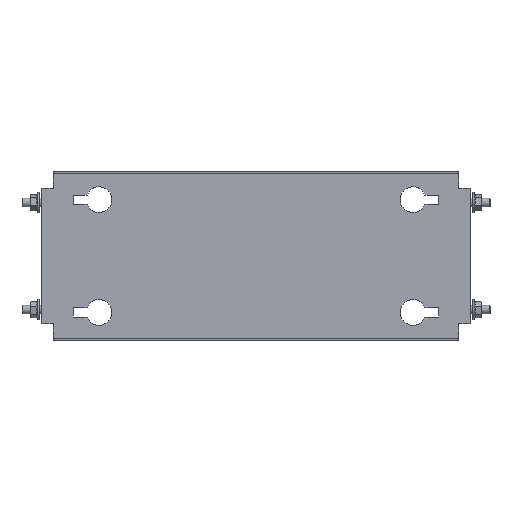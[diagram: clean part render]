
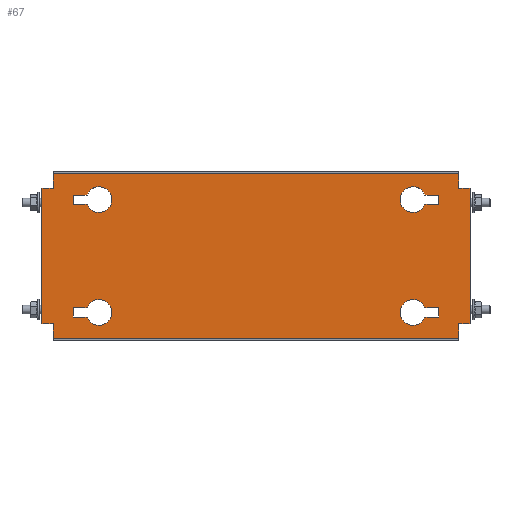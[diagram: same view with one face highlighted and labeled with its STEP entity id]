
A CAD part, top view. The second image highlights one B-rep face of the part: STEP entity #67.
In plain terms, the highlighted planar face has unit normal (0, 0, 1).
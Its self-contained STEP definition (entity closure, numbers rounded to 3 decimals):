
#67 = ADVANCED_FACE('',(#68,#103,#138,#300,#335),#370,.T.);
#68 = FACE_BOUND('',#69,.T.);
#69 = EDGE_LOOP('',(#70,#80,#88,#96));
#70 = ORIENTED_EDGE('',*,*,#71,.T.);
#71 = EDGE_CURVE('',#72,#74,#76,.T.);
#72 = VERTEX_POINT('',#73);
#73 = CARTESIAN_POINT('',(118.393,42.75,2.));
#74 = VERTEX_POINT('',#75);
#75 = CARTESIAN_POINT('',(128.,42.75,2.));
#76 = LINE('',#77,#78);
#77 = CARTESIAN_POINT('',(127.,42.75,2.));
#78 = VECTOR('',#79,1.);
#79 = DIRECTION('',(1.,0.,0.));
#80 = ORIENTED_EDGE('',*,*,#81,.T.);
#81 = EDGE_CURVE('',#74,#82,#84,.T.);
#82 = VERTEX_POINT('',#83);
#83 = CARTESIAN_POINT('',(128.,36.25,2.));
#84 = LINE('',#85,#86);
#85 = CARTESIAN_POINT('',(128.,42.75,2.));
#86 = VECTOR('',#87,1.);
#87 = DIRECTION('',(0.,-1.,0.));
#88 = ORIENTED_EDGE('',*,*,#89,.T.);
#89 = EDGE_CURVE('',#82,#90,#92,.T.);
#90 = VERTEX_POINT('',#91);
#91 = CARTESIAN_POINT('',(118.393,36.25,2.));
#92 = LINE('',#93,#94);
#93 = CARTESIAN_POINT('',(127.,36.25,2.));
#94 = VECTOR('',#95,1.);
#95 = DIRECTION('',(-1.,0.,0.));
#96 = ORIENTED_EDGE('',*,*,#97,.T.);
#97 = EDGE_CURVE('',#90,#72,#98,.T.);
#98 = CIRCLE('',#99,9.);
#99 = AXIS2_PLACEMENT_3D('',#100,#101,#102);
#100 = CARTESIAN_POINT('',(110.,39.5,2.));
#101 = DIRECTION('',(0.,0.,-1.));
#102 = DIRECTION('',(1.,0.,0.));
#103 = FACE_BOUND('',#104,.T.);
#104 = EDGE_LOOP('',(#105,#115,#123,#131));
#105 = ORIENTED_EDGE('',*,*,#106,.T.);
#106 = EDGE_CURVE('',#107,#109,#111,.T.);
#107 = VERTEX_POINT('',#108);
#108 = CARTESIAN_POINT('',(-118.393,-42.75,2.));
#109 = VERTEX_POINT('',#110);
#110 = CARTESIAN_POINT('',(-128.,-42.75,2.));
#111 = LINE('',#112,#113);
#112 = CARTESIAN_POINT('',(-127.,-42.75,2.));
#113 = VECTOR('',#114,1.);
#114 = DIRECTION('',(-1.,0.,0.));
#115 = ORIENTED_EDGE('',*,*,#116,.T.);
#116 = EDGE_CURVE('',#109,#117,#119,.T.);
#117 = VERTEX_POINT('',#118);
#118 = CARTESIAN_POINT('',(-128.,-36.25,2.));
#119 = LINE('',#120,#121);
#120 = CARTESIAN_POINT('',(-128.,-42.75,2.));
#121 = VECTOR('',#122,1.);
#122 = DIRECTION('',(0.,1.,0.));
#123 = ORIENTED_EDGE('',*,*,#124,.T.);
#124 = EDGE_CURVE('',#117,#125,#127,.T.);
#125 = VERTEX_POINT('',#126);
#126 = CARTESIAN_POINT('',(-118.393,-36.25,2.));
#127 = LINE('',#128,#129);
#128 = CARTESIAN_POINT('',(-127.,-36.25,2.));
#129 = VECTOR('',#130,1.);
#130 = DIRECTION('',(1.,-0.,-0.));
#131 = ORIENTED_EDGE('',*,*,#132,.T.);
#132 = EDGE_CURVE('',#125,#107,#133,.T.);
#133 = CIRCLE('',#134,9.);
#134 = AXIS2_PLACEMENT_3D('',#135,#136,#137);
#135 = CARTESIAN_POINT('',(-110.,-39.5,2.));
#136 = DIRECTION('',(0.,0.,-1.));
#137 = DIRECTION('',(-1.,0.,0.));
#138 = FACE_BOUND('',#139,.T.);
#139 = EDGE_LOOP('',(#140,#150,#158,#166,#174,#182,#190,#198,#206,#214,
    #222,#230,#238,#246,#254,#262,#270,#278,#286,#294));
#140 = ORIENTED_EDGE('',*,*,#141,.F.);
#141 = EDGE_CURVE('',#142,#144,#146,.T.);
#142 = VERTEX_POINT('',#143);
#143 = CARTESIAN_POINT('',(-147.4,47.5,2.));
#144 = VERTEX_POINT('',#145);
#145 = CARTESIAN_POINT('',(-142.,47.5,2.));
#146 = LINE('',#147,#148);
#147 = CARTESIAN_POINT('',(-148.,47.5,2.));
#148 = VECTOR('',#149,1.);
#149 = DIRECTION('',(1.,0.,-0.));
#150 = ORIENTED_EDGE('',*,*,#151,.T.);
#151 = EDGE_CURVE('',#142,#152,#154,.T.);
#152 = VERTEX_POINT('',#153);
#153 = CARTESIAN_POINT('',(-150.,47.5,2.));
#154 = LINE('',#155,#156);
#155 = CARTESIAN_POINT('',(-147.4,47.5,2.));
#156 = VECTOR('',#157,1.);
#157 = DIRECTION('',(-1.,0.,0.));
#158 = ORIENTED_EDGE('',*,*,#159,.F.);
#159 = EDGE_CURVE('',#160,#152,#162,.T.);
#160 = VERTEX_POINT('',#161);
#161 = CARTESIAN_POINT('',(-150.,-47.5,2.));
#162 = LINE('',#163,#164);
#163 = CARTESIAN_POINT('',(-150.,-57.5,2.));
#164 = VECTOR('',#165,1.);
#165 = DIRECTION('',(-0.,1.,-0.));
#166 = ORIENTED_EDGE('',*,*,#167,.F.);
#167 = EDGE_CURVE('',#168,#160,#170,.T.);
#168 = VERTEX_POINT('',#169);
#169 = CARTESIAN_POINT('',(-147.4,-47.5,2.));
#170 = LINE('',#171,#172);
#171 = CARTESIAN_POINT('',(-142.,-47.5,2.));
#172 = VECTOR('',#173,1.);
#173 = DIRECTION('',(-1.,-0.,-0.));
#174 = ORIENTED_EDGE('',*,*,#175,.T.);
#175 = EDGE_CURVE('',#168,#176,#178,.T.);
#176 = VERTEX_POINT('',#177);
#177 = CARTESIAN_POINT('',(-142.,-47.5,2.));
#178 = LINE('',#179,#180);
#179 = CARTESIAN_POINT('',(-148.,-47.5,2.));
#180 = VECTOR('',#181,1.);
#181 = DIRECTION('',(1.,0.,-0.));
#182 = ORIENTED_EDGE('',*,*,#183,.T.);
#183 = EDGE_CURVE('',#176,#184,#186,.T.);
#184 = VERTEX_POINT('',#185);
#185 = CARTESIAN_POINT('',(-142.,-56.9,2.));
#186 = LINE('',#187,#188);
#187 = CARTESIAN_POINT('',(-142.,57.5,2.));
#188 = VECTOR('',#189,1.);
#189 = DIRECTION('',(0.,-1.,0.));
#190 = ORIENTED_EDGE('',*,*,#191,.T.);
#191 = EDGE_CURVE('',#184,#192,#194,.T.);
#192 = VERTEX_POINT('',#193);
#193 = CARTESIAN_POINT('',(-142.,-57.5,2.));
#194 = LINE('',#195,#196);
#195 = CARTESIAN_POINT('',(-142.,-56.9,2.));
#196 = VECTOR('',#197,1.);
#197 = DIRECTION('',(-0.,-1.,-0.));
#198 = ORIENTED_EDGE('',*,*,#199,.T.);
#199 = EDGE_CURVE('',#192,#200,#202,.T.);
#200 = VERTEX_POINT('',#201);
#201 = CARTESIAN_POINT('',(142.,-57.5,2.));
#202 = LINE('',#203,#204);
#203 = CARTESIAN_POINT('',(142.,-57.5,2.));
#204 = VECTOR('',#205,1.);
#205 = DIRECTION('',(1.,0.,0.));
#206 = ORIENTED_EDGE('',*,*,#207,.F.);
#207 = EDGE_CURVE('',#208,#200,#210,.T.);
#208 = VERTEX_POINT('',#209);
#209 = CARTESIAN_POINT('',(142.,-56.9,2.));
#210 = LINE('',#211,#212);
#211 = CARTESIAN_POINT('',(142.,-57.5,2.));
#212 = VECTOR('',#213,1.);
#213 = DIRECTION('',(0.,-1.,0.));
#214 = ORIENTED_EDGE('',*,*,#215,.T.);
#215 = EDGE_CURVE('',#208,#216,#218,.T.);
#216 = VERTEX_POINT('',#217);
#217 = CARTESIAN_POINT('',(142.,-47.5,2.));
#218 = LINE('',#219,#220);
#219 = CARTESIAN_POINT('',(142.,57.5,2.));
#220 = VECTOR('',#221,1.);
#221 = DIRECTION('',(0.,1.,-0.));
#222 = ORIENTED_EDGE('',*,*,#223,.F.);
#223 = EDGE_CURVE('',#224,#216,#226,.T.);
#224 = VERTEX_POINT('',#225);
#225 = CARTESIAN_POINT('',(147.4,-47.5,2.));
#226 = LINE('',#227,#228);
#227 = CARTESIAN_POINT('',(148.,-47.5,2.));
#228 = VECTOR('',#229,1.);
#229 = DIRECTION('',(-1.,0.,-0.));
#230 = ORIENTED_EDGE('',*,*,#231,.T.);
#231 = EDGE_CURVE('',#224,#232,#234,.T.);
#232 = VERTEX_POINT('',#233);
#233 = CARTESIAN_POINT('',(150.,-47.5,2.));
#234 = LINE('',#235,#236);
#235 = CARTESIAN_POINT('',(147.4,-47.5,2.));
#236 = VECTOR('',#237,1.);
#237 = DIRECTION('',(1.,-0.,0.));
#238 = ORIENTED_EDGE('',*,*,#239,.F.);
#239 = EDGE_CURVE('',#240,#232,#242,.T.);
#240 = VERTEX_POINT('',#241);
#241 = CARTESIAN_POINT('',(150.,47.5,2.));
#242 = LINE('',#243,#244);
#243 = CARTESIAN_POINT('',(150.,-57.5,2.));
#244 = VECTOR('',#245,1.);
#245 = DIRECTION('',(-0.,-1.,0.));
#246 = ORIENTED_EDGE('',*,*,#247,.F.);
#247 = EDGE_CURVE('',#248,#240,#250,.T.);
#248 = VERTEX_POINT('',#249);
#249 = CARTESIAN_POINT('',(147.4,47.5,2.));
#250 = LINE('',#251,#252);
#251 = CARTESIAN_POINT('',(-142.,47.5,2.));
#252 = VECTOR('',#253,1.);
#253 = DIRECTION('',(1.,-0.,0.));
#254 = ORIENTED_EDGE('',*,*,#255,.T.);
#255 = EDGE_CURVE('',#248,#256,#258,.T.);
#256 = VERTEX_POINT('',#257);
#257 = CARTESIAN_POINT('',(142.,47.5,2.));
#258 = LINE('',#259,#260);
#259 = CARTESIAN_POINT('',(148.,47.5,2.));
#260 = VECTOR('',#261,1.);
#261 = DIRECTION('',(-1.,0.,-0.));
#262 = ORIENTED_EDGE('',*,*,#263,.T.);
#263 = EDGE_CURVE('',#256,#264,#266,.T.);
#264 = VERTEX_POINT('',#265);
#265 = CARTESIAN_POINT('',(142.,56.9,2.));
#266 = LINE('',#267,#268);
#267 = CARTESIAN_POINT('',(142.,57.5,2.));
#268 = VECTOR('',#269,1.);
#269 = DIRECTION('',(0.,1.,-0.));
#270 = ORIENTED_EDGE('',*,*,#271,.T.);
#271 = EDGE_CURVE('',#264,#272,#274,.T.);
#272 = VERTEX_POINT('',#273);
#273 = CARTESIAN_POINT('',(142.,57.5,2.));
#274 = LINE('',#275,#276);
#275 = CARTESIAN_POINT('',(142.,56.9,2.));
#276 = VECTOR('',#277,1.);
#277 = DIRECTION('',(-0.,1.,-0.));
#278 = ORIENTED_EDGE('',*,*,#279,.T.);
#279 = EDGE_CURVE('',#272,#280,#282,.T.);
#280 = VERTEX_POINT('',#281);
#281 = CARTESIAN_POINT('',(-142.,57.5,2.));
#282 = LINE('',#283,#284);
#283 = CARTESIAN_POINT('',(-142.,57.5,2.));
#284 = VECTOR('',#285,1.);
#285 = DIRECTION('',(-1.,0.,0.));
#286 = ORIENTED_EDGE('',*,*,#287,.F.);
#287 = EDGE_CURVE('',#288,#280,#290,.T.);
#288 = VERTEX_POINT('',#289);
#289 = CARTESIAN_POINT('',(-142.,56.9,2.));
#290 = LINE('',#291,#292);
#291 = CARTESIAN_POINT('',(-142.,-57.5,2.));
#292 = VECTOR('',#293,1.);
#293 = DIRECTION('',(0.,1.,-0.));
#294 = ORIENTED_EDGE('',*,*,#295,.T.);
#295 = EDGE_CURVE('',#288,#144,#296,.T.);
#296 = LINE('',#297,#298);
#297 = CARTESIAN_POINT('',(-142.,57.5,2.));
#298 = VECTOR('',#299,1.);
#299 = DIRECTION('',(0.,-1.,0.));
#300 = FACE_BOUND('',#301,.T.);
#301 = EDGE_LOOP('',(#302,#312,#320,#328));
#302 = ORIENTED_EDGE('',*,*,#303,.F.);
#303 = EDGE_CURVE('',#304,#306,#308,.T.);
#304 = VERTEX_POINT('',#305);
#305 = CARTESIAN_POINT('',(128.,-36.25,2.));
#306 = VERTEX_POINT('',#307);
#307 = CARTESIAN_POINT('',(118.393,-36.25,2.));
#308 = LINE('',#309,#310);
#309 = CARTESIAN_POINT('',(118.393,-36.25,2.));
#310 = VECTOR('',#311,1.);
#311 = DIRECTION('',(-1.,0.,0.));
#312 = ORIENTED_EDGE('',*,*,#313,.F.);
#313 = EDGE_CURVE('',#314,#304,#316,.T.);
#314 = VERTEX_POINT('',#315);
#315 = CARTESIAN_POINT('',(128.,-42.75,2.));
#316 = LINE('',#317,#318);
#317 = CARTESIAN_POINT('',(128.,-36.25,2.));
#318 = VECTOR('',#319,1.);
#319 = DIRECTION('',(0.,1.,0.));
#320 = ORIENTED_EDGE('',*,*,#321,.F.);
#321 = EDGE_CURVE('',#322,#314,#324,.T.);
#322 = VERTEX_POINT('',#323);
#323 = CARTESIAN_POINT('',(118.393,-42.75,2.));
#324 = LINE('',#325,#326);
#325 = CARTESIAN_POINT('',(127.,-42.75,2.));
#326 = VECTOR('',#327,1.);
#327 = DIRECTION('',(1.,0.,0.));
#328 = ORIENTED_EDGE('',*,*,#329,.F.);
#329 = EDGE_CURVE('',#306,#322,#330,.T.);
#330 = CIRCLE('',#331,9.);
#331 = AXIS2_PLACEMENT_3D('',#332,#333,#334);
#332 = CARTESIAN_POINT('',(110.,-39.5,2.));
#333 = DIRECTION('',(0.,-0.,1.));
#334 = DIRECTION('',(1.,0.,0.));
#335 = FACE_BOUND('',#336,.T.);
#336 = EDGE_LOOP('',(#337,#347,#355,#363));
#337 = ORIENTED_EDGE('',*,*,#338,.F.);
#338 = EDGE_CURVE('',#339,#341,#343,.T.);
#339 = VERTEX_POINT('',#340);
#340 = CARTESIAN_POINT('',(-128.,36.25,2.));
#341 = VERTEX_POINT('',#342);
#342 = CARTESIAN_POINT('',(-118.393,36.25,2.));
#343 = LINE('',#344,#345);
#344 = CARTESIAN_POINT('',(-118.393,36.25,2.));
#345 = VECTOR('',#346,1.);
#346 = DIRECTION('',(1.,0.,0.));
#347 = ORIENTED_EDGE('',*,*,#348,.F.);
#348 = EDGE_CURVE('',#349,#339,#351,.T.);
#349 = VERTEX_POINT('',#350);
#350 = CARTESIAN_POINT('',(-128.,42.75,2.));
#351 = LINE('',#352,#353);
#352 = CARTESIAN_POINT('',(-128.,36.25,2.));
#353 = VECTOR('',#354,1.);
#354 = DIRECTION('',(0.,-1.,0.));
#355 = ORIENTED_EDGE('',*,*,#356,.F.);
#356 = EDGE_CURVE('',#357,#349,#359,.T.);
#357 = VERTEX_POINT('',#358);
#358 = CARTESIAN_POINT('',(-118.393,42.75,2.));
#359 = LINE('',#360,#361);
#360 = CARTESIAN_POINT('',(-127.,42.75,2.));
#361 = VECTOR('',#362,1.);
#362 = DIRECTION('',(-1.,0.,0.));
#363 = ORIENTED_EDGE('',*,*,#364,.F.);
#364 = EDGE_CURVE('',#341,#357,#365,.T.);
#365 = CIRCLE('',#366,9.);
#366 = AXIS2_PLACEMENT_3D('',#367,#368,#369);
#367 = CARTESIAN_POINT('',(-110.,39.5,2.));
#368 = DIRECTION('',(0.,-0.,1.));
#369 = DIRECTION('',(-1.,0.,0.));
#370 = PLANE('',#371);
#371 = AXIS2_PLACEMENT_3D('',#372,#373,#374);
#372 = CARTESIAN_POINT('',(-142.,-57.5,2.));
#373 = DIRECTION('',(-0.,0.,1.));
#374 = DIRECTION('',(1.,0.,0.));
